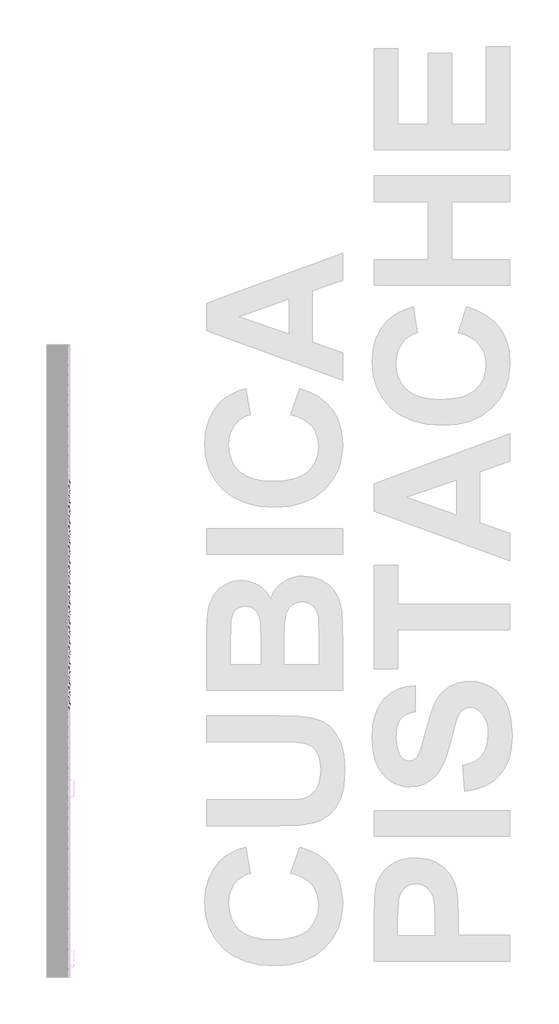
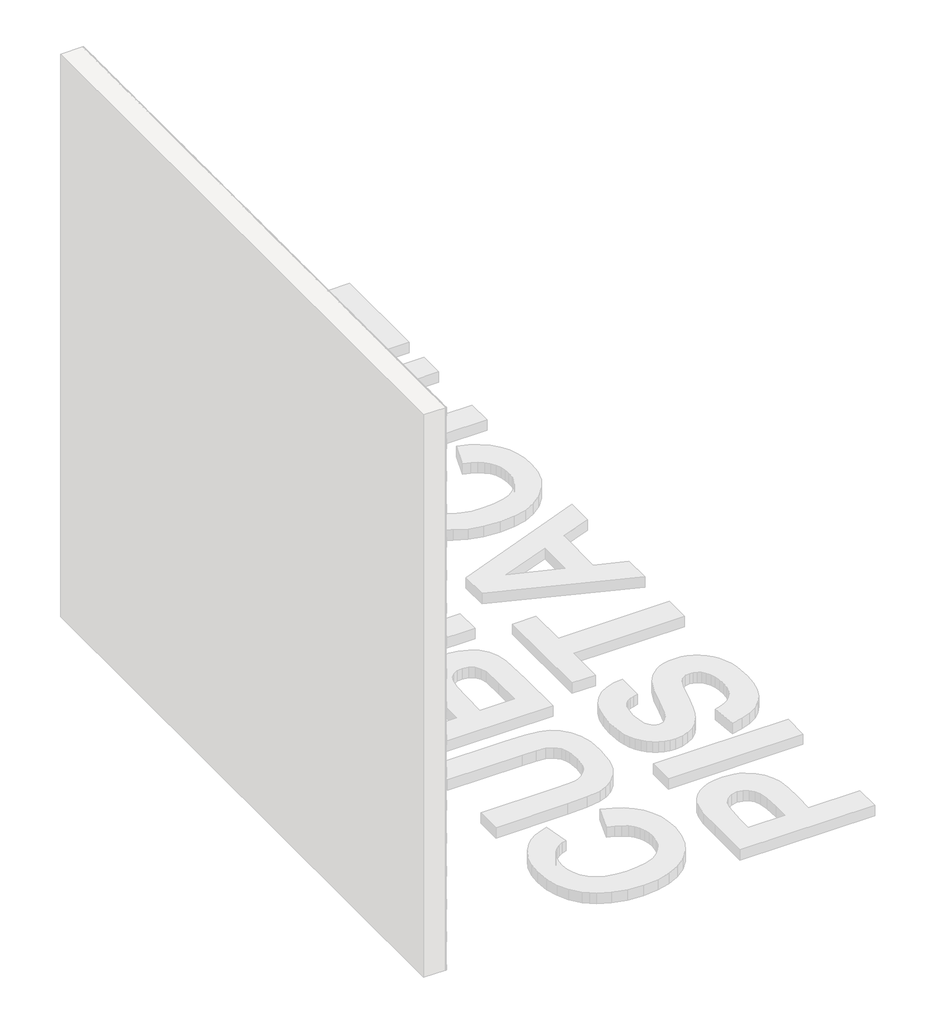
# One storey, part 87 of 121: 145 proxies.
"""IFC4 building model written with IfcOpenShell, lengths in millimetres."""

from ifc_helpers import new_model, si_unit, origin, place, context, project, spatial, transform, mapped, element, save
from components import generic_models_b2b2c5c1, generic_models_9bf73f6f, generic_models_5d175859

model = new_model("IFC4")

# Units and contexts
model_context = context("Model", 3, world=origin())
ifc_project = project(units=[si_unit("LENGTHUNIT", "METRE", prefix="MILLI")], contexts=[model_context])

# Site, building, storey
site = spatial("IfcSite", under=ifc_project)
building = spatial("IfcBuilding", under=site)
storey = spatial("IfcBuildingStorey", under=building, Name="PORTOBELLO - SHOWROOM", Elevation=0.0)

# Proxies
placement = place(None, origin())
generic_models_shape = generic_models_b2b2c5c1(model_context)
element("IfcBuildingElementProxy", 1, Name="PBSHOP - CUBICA PISTACHE 4,8X8,3 : CUBICA PISTACHE - POSIÇÃO 01", ObjectType="PBSHOP - CUBICA PISTACHE 4,8X8,3 : CUBICA PISTACHE - POSIÇÃO 01", at=placement, inside=storey, context=model_context, shape_type="MappedRepresentation", body=[
    mapped(generic_models_shape, transform((150369.5341846, 14295.3956881, 1065.5724657), x_axis=(0.0, 1.0, 0.0), y_axis=(0.0, 0.0, 1.0), z_axis=(1.0, 0.0, 0.0))),
])
element("IfcBuildingElementProxy", 2, Name="PBSHOP - CUBICA PISTACHE 4,8X8,3 : CUBICA PISTACHE - POSIÇÃO 01", ObjectType="PBSHOP - CUBICA PISTACHE 4,8X8,3 : CUBICA PISTACHE - POSIÇÃO 01", at=placement, inside=storey, context=model_context, shape_type="MappedRepresentation", body=[
    mapped(generic_models_shape, transform((150369.5341846, 14386.2349573, 1065.5724657), x_axis=(0.0, 1.0, 0.0), y_axis=(0.0, 0.0, 1.0), z_axis=(1.0, 0.0, 0.0))),
])
element("IfcBuildingElementProxy", 3, Name="PBSHOP - CUBICA PISTACHE 4,8X8,3 : CUBICA PISTACHE - POSIÇÃO 01", ObjectType="PBSHOP - CUBICA PISTACHE 4,8X8,3 : CUBICA PISTACHE - POSIÇÃO 01", at=placement, inside=storey, context=model_context, shape_type="MappedRepresentation", body=[
    mapped(generic_models_shape, transform((150369.5341846, 14477.0742266, 1065.5724657), x_axis=(0.0, 1.0, 0.0), y_axis=(0.0, 0.0, 1.0), z_axis=(1.0, 0.0, 0.0))),
])
element("IfcBuildingElementProxy", 4, Name="PBSHOP - CUBICA PISTACHE 4,8X8,3 : CUBICA PISTACHE - POSIÇÃO 01", ObjectType="PBSHOP - CUBICA PISTACHE 4,8X8,3 : CUBICA PISTACHE - POSIÇÃO 01", at=placement, inside=storey, context=model_context, shape_type="MappedRepresentation", body=[
    mapped(generic_models_shape, transform((150369.5341846, 14567.9134958, 1065.5724657), x_axis=(0.0, 1.0, 0.0), y_axis=(0.0, 0.0, 1.0), z_axis=(1.0, 0.0, 0.0))),
])
element("IfcBuildingElementProxy", 5, Name="PBSHOP - CUBICA PISTACHE 4,8X8,3 : CUBICA PISTACHE - POSIÇÃO 01", ObjectType="PBSHOP - CUBICA PISTACHE 4,8X8,3 : CUBICA PISTACHE - POSIÇÃO 01", at=placement, inside=storey, context=model_context, shape_type="MappedRepresentation", body=[
    mapped(generic_models_shape, transform((150369.5341846, 14658.7527651, 1065.5724657), x_axis=(0.0, 1.0, 0.0), y_axis=(0.0, 0.0, 1.0), z_axis=(1.0, 0.0, 0.0))),
])
element("IfcBuildingElementProxy", 6, Name="PBSHOP - CUBICA PISTACHE 4,8X8,3 : CUBICA PISTACHE - POSIÇÃO 01", ObjectType="PBSHOP - CUBICA PISTACHE 4,8X8,3 : CUBICA PISTACHE - POSIÇÃO 01", at=placement, inside=storey, context=model_context, shape_type="MappedRepresentation", body=[
    mapped(generic_models_shape, transform((150369.5341846, 14749.5920343, 1065.5724657), x_axis=(0.0, 1.0, 0.0), y_axis=(0.0, 0.0, 1.0), z_axis=(1.0, 0.0, 0.0))),
])
element("IfcBuildingElementProxy", 7, Name="PBSHOP - CUBICA PISTACHE 4,8X8,3 : CUBICA PISTACHE - POSIÇÃO 01", ObjectType="PBSHOP - CUBICA PISTACHE 4,8X8,3 : CUBICA PISTACHE - POSIÇÃO 01", at=placement, inside=storey, context=model_context, shape_type="MappedRepresentation", body=[
    mapped(generic_models_shape, transform((150369.5341846, 14840.4313036, 1065.5724657), x_axis=(0.0, 1.0, 0.0), y_axis=(0.0, 0.0, 1.0), z_axis=(1.0, 0.0, 0.0))),
])
element("IfcBuildingElementProxy", 8, Name="PBSHOP - CUBICA PISTACHE 4,8X8,3 : CUBICA PISTACHE - POSIÇÃO 01", ObjectType="PBSHOP - CUBICA PISTACHE 4,8X8,3 : CUBICA PISTACHE - POSIÇÃO 01", at=placement, inside=storey, context=model_context, shape_type="MappedRepresentation", body=[
    mapped(generic_models_shape, transform((150369.5341846, 14931.2705728, 1065.5724657), x_axis=(0.0, 1.0, 0.0), y_axis=(0.0, 0.0, 1.0), z_axis=(1.0, 0.0, 0.0))),
])
element("IfcBuildingElementProxy", 9, Name="PBSHOP - CUBICA PISTACHE 4,8X8,3 : CUBICA PISTACHE - POSIÇÃO 01", ObjectType="PBSHOP - CUBICA PISTACHE 4,8X8,3 : CUBICA PISTACHE - POSIÇÃO 01", at=placement, inside=storey, context=model_context, shape_type="MappedRepresentation", body=[
    mapped(generic_models_shape, transform((150369.5341846, 14068.297515, 1144.507104), x_axis=(0.0, 1.0, 0.0), y_axis=(0.0, 0.0, 1.0), z_axis=(1.0, 0.0, 0.0))),
])
element("IfcBuildingElementProxy", 10, Name="PBSHOP - CUBICA PISTACHE 4,8X8,3 : CUBICA PISTACHE - POSIÇÃO 01", ObjectType="PBSHOP - CUBICA PISTACHE 4,8X8,3 : CUBICA PISTACHE - POSIÇÃO 01", at=placement, inside=storey, context=model_context, shape_type="MappedRepresentation", body=[
    mapped(generic_models_shape, transform((150369.5341846, 14159.1367842, 1144.507104), x_axis=(0.0, 1.0, 0.0), y_axis=(0.0, 0.0, 1.0), z_axis=(1.0, 0.0, 0.0))),
])
element("IfcBuildingElementProxy", 11, Name="PBSHOP - CUBICA PISTACHE 4,8X8,3 : CUBICA PISTACHE - POSIÇÃO 01", ObjectType="PBSHOP - CUBICA PISTACHE 4,8X8,3 : CUBICA PISTACHE - POSIÇÃO 01", at=placement, inside=storey, context=model_context, shape_type="MappedRepresentation", body=[
    mapped(generic_models_shape, transform((150369.5341846, 14249.9760535, 1144.507104), x_axis=(0.0, 1.0, 0.0), y_axis=(0.0, 0.0, 1.0), z_axis=(1.0, 0.0, 0.0))),
])
element("IfcBuildingElementProxy", 12, Name="PBSHOP - CUBICA PISTACHE 4,8X8,3 : CUBICA PISTACHE - POSIÇÃO 01", ObjectType="PBSHOP - CUBICA PISTACHE 4,8X8,3 : CUBICA PISTACHE - POSIÇÃO 01", at=placement, inside=storey, context=model_context, shape_type="MappedRepresentation", body=[
    mapped(generic_models_shape, transform((150369.5341846, 14340.8153227, 1144.507104), x_axis=(0.0, 1.0, 0.0), y_axis=(0.0, 0.0, 1.0), z_axis=(1.0, 0.0, 0.0))),
])
element("IfcBuildingElementProxy", 13, Name="PBSHOP - CUBICA PISTACHE 4,8X8,3 : CUBICA PISTACHE - POSIÇÃO 01", ObjectType="PBSHOP - CUBICA PISTACHE 4,8X8,3 : CUBICA PISTACHE - POSIÇÃO 01", at=placement, inside=storey, context=model_context, shape_type="MappedRepresentation", body=[
    mapped(generic_models_shape, transform((150369.5341846, 14431.654592, 1144.507104), x_axis=(0.0, 1.0, 0.0), y_axis=(0.0, 0.0, 1.0), z_axis=(1.0, 0.0, 0.0))),
])
element("IfcBuildingElementProxy", 14, Name="PBSHOP - CUBICA PISTACHE 4,8X8,3 : CUBICA PISTACHE - POSIÇÃO 01", ObjectType="PBSHOP - CUBICA PISTACHE 4,8X8,3 : CUBICA PISTACHE - POSIÇÃO 01", at=placement, inside=storey, context=model_context, shape_type="MappedRepresentation", body=[
    mapped(generic_models_shape, transform((150369.5341846, 14522.4938612, 1144.507104), x_axis=(0.0, 1.0, 0.0), y_axis=(0.0, 0.0, 1.0), z_axis=(1.0, 0.0, 0.0))),
])
element("IfcBuildingElementProxy", 15, Name="PBSHOP - CUBICA PISTACHE 4,8X8,3 : CUBICA PISTACHE - POSIÇÃO 01", ObjectType="PBSHOP - CUBICA PISTACHE 4,8X8,3 : CUBICA PISTACHE - POSIÇÃO 01", at=placement, inside=storey, context=model_context, shape_type="MappedRepresentation", body=[
    mapped(generic_models_shape, transform((150369.5341846, 14613.3331304, 1144.507104), x_axis=(0.0, 1.0, 0.0), y_axis=(0.0, 0.0, 1.0), z_axis=(1.0, 0.0, 0.0))),
])
element("IfcBuildingElementProxy", 16, Name="PBSHOP - CUBICA PISTACHE 4,8X8,3 : CUBICA PISTACHE - POSIÇÃO 01", ObjectType="PBSHOP - CUBICA PISTACHE 4,8X8,3 : CUBICA PISTACHE - POSIÇÃO 01", at=placement, inside=storey, context=model_context, shape_type="MappedRepresentation", body=[
    mapped(generic_models_shape, transform((150369.5341846, 14704.1723997, 1144.507104), x_axis=(0.0, 1.0, 0.0), y_axis=(0.0, 0.0, 1.0), z_axis=(1.0, 0.0, 0.0))),
])
element("IfcBuildingElementProxy", 17, Name="PBSHOP - CUBICA PISTACHE 4,8X8,3 : CUBICA PISTACHE - POSIÇÃO 01", ObjectType="PBSHOP - CUBICA PISTACHE 4,8X8,3 : CUBICA PISTACHE - POSIÇÃO 01", at=placement, inside=storey, context=model_context, shape_type="MappedRepresentation", body=[
    mapped(generic_models_shape, transform((150369.5341846, 14795.0116689, 1144.507104), x_axis=(0.0, 1.0, 0.0), y_axis=(0.0, 0.0, 1.0), z_axis=(1.0, 0.0, 0.0))),
])
element("IfcBuildingElementProxy", 18, Name="PBSHOP - CUBICA PISTACHE 4,8X8,3 : CUBICA PISTACHE - POSIÇÃO 01", ObjectType="PBSHOP - CUBICA PISTACHE 4,8X8,3 : CUBICA PISTACHE - POSIÇÃO 01", at=placement, inside=storey, context=model_context, shape_type="MappedRepresentation", body=[
    mapped(generic_models_shape, transform((150369.5341846, 14885.8509382, 1144.507104), x_axis=(0.0, 1.0, 0.0), y_axis=(0.0, 0.0, 1.0), z_axis=(1.0, 0.0, 0.0))),
])
element("IfcBuildingElementProxy", 19, Name="PBSHOP - CUBICA PISTACHE 4,8X8,3 : CUBICA PISTACHE - POSIÇÃO 01", ObjectType="PBSHOP - CUBICA PISTACHE 4,8X8,3 : CUBICA PISTACHE - POSIÇÃO 01", at=placement, inside=storey, context=model_context, shape_type="MappedRepresentation", body=[
    mapped(generic_models_shape, transform((150369.5341846, 14976.6902074, 1144.507104), x_axis=(0.0, 1.0, 0.0), y_axis=(0.0, 0.0, 1.0), z_axis=(1.0, 0.0, 0.0))),
])
element("IfcBuildingElementProxy", 20, Name="PBSHOP - CUBICA PISTACHE 4,8X8,3 : CUBICA PISTACHE - POSIÇÃO 01", ObjectType="PBSHOP - CUBICA PISTACHE 4,8X8,3 : CUBICA PISTACHE - POSIÇÃO 01", at=placement, inside=storey, context=model_context, shape_type="MappedRepresentation", body=[
    mapped(generic_models_shape, transform((150369.5341846, 14022.8778804, 1223.4417424), x_axis=(0.0, 1.0, 0.0), y_axis=(0.0, 0.0, 1.0), z_axis=(1.0, 0.0, 0.0))),
])
element("IfcBuildingElementProxy", 21, Name="PBSHOP - CUBICA PISTACHE 4,8X8,3 : CUBICA PISTACHE - POSIÇÃO 01", ObjectType="PBSHOP - CUBICA PISTACHE 4,8X8,3 : CUBICA PISTACHE - POSIÇÃO 01", at=placement, inside=storey, context=model_context, shape_type="MappedRepresentation", body=[
    mapped(generic_models_shape, transform((150369.5341846, 14113.7171496, 1223.4417424), x_axis=(0.0, 1.0, 0.0), y_axis=(0.0, 0.0, 1.0), z_axis=(1.0, 0.0, 0.0))),
])
element("IfcBuildingElementProxy", 22, Name="PBSHOP - CUBICA PISTACHE 4,8X8,3 : CUBICA PISTACHE - POSIÇÃO 01", ObjectType="PBSHOP - CUBICA PISTACHE 4,8X8,3 : CUBICA PISTACHE - POSIÇÃO 01", at=placement, inside=storey, context=model_context, shape_type="MappedRepresentation", body=[
    mapped(generic_models_shape, transform((150369.5341846, 14204.5564189, 1223.4417424), x_axis=(0.0, 1.0, 0.0), y_axis=(0.0, 0.0, 1.0), z_axis=(1.0, 0.0, 0.0))),
])
element("IfcBuildingElementProxy", 23, Name="PBSHOP - CUBICA PISTACHE 4,8X8,3 : CUBICA PISTACHE - POSIÇÃO 01", ObjectType="PBSHOP - CUBICA PISTACHE 4,8X8,3 : CUBICA PISTACHE - POSIÇÃO 01", at=placement, inside=storey, context=model_context, shape_type="MappedRepresentation", body=[
    mapped(generic_models_shape, transform((150369.5341846, 14295.3956881, 1223.4417424), x_axis=(0.0, 1.0, 0.0), y_axis=(0.0, 0.0, 1.0), z_axis=(1.0, 0.0, 0.0))),
])
element("IfcBuildingElementProxy", 24, Name="PBSHOP - CUBICA PISTACHE 4,8X8,3 : CUBICA PISTACHE - POSIÇÃO 01", ObjectType="PBSHOP - CUBICA PISTACHE 4,8X8,3 : CUBICA PISTACHE - POSIÇÃO 01", at=placement, inside=storey, context=model_context, shape_type="MappedRepresentation", body=[
    mapped(generic_models_shape, transform((150369.5341846, 14386.2349573, 1223.4417424), x_axis=(0.0, 1.0, 0.0), y_axis=(0.0, 0.0, 1.0), z_axis=(1.0, 0.0, 0.0))),
])
element("IfcBuildingElementProxy", 25, Name="PBSHOP - CUBICA PISTACHE 4,8X8,3 : CUBICA PISTACHE - POSIÇÃO 01", ObjectType="PBSHOP - CUBICA PISTACHE 4,8X8,3 : CUBICA PISTACHE - POSIÇÃO 01", at=placement, inside=storey, context=model_context, shape_type="MappedRepresentation", body=[
    mapped(generic_models_shape, transform((150369.5341846, 14477.0742266, 1223.4417424), x_axis=(0.0, 1.0, 0.0), y_axis=(0.0, 0.0, 1.0), z_axis=(1.0, 0.0, 0.0))),
])
element("IfcBuildingElementProxy", 26, Name="PBSHOP - CUBICA PISTACHE 4,8X8,3 : CUBICA PISTACHE - POSIÇÃO 01", ObjectType="PBSHOP - CUBICA PISTACHE 4,8X8,3 : CUBICA PISTACHE - POSIÇÃO 01", at=placement, inside=storey, context=model_context, shape_type="MappedRepresentation", body=[
    mapped(generic_models_shape, transform((150369.5341846, 14567.9134958, 1223.4417424), x_axis=(0.0, 1.0, 0.0), y_axis=(0.0, 0.0, 1.0), z_axis=(1.0, 0.0, 0.0))),
])
element("IfcBuildingElementProxy", 27, Name="PBSHOP - CUBICA PISTACHE 4,8X8,3 : CUBICA PISTACHE - POSIÇÃO 01", ObjectType="PBSHOP - CUBICA PISTACHE 4,8X8,3 : CUBICA PISTACHE - POSIÇÃO 01", at=placement, inside=storey, context=model_context, shape_type="MappedRepresentation", body=[
    mapped(generic_models_shape, transform((150369.5341846, 14658.7527651, 1223.4417424), x_axis=(0.0, 1.0, 0.0), y_axis=(0.0, 0.0, 1.0), z_axis=(1.0, 0.0, 0.0))),
])
element("IfcBuildingElementProxy", 28, Name="PBSHOP - CUBICA PISTACHE 4,8X8,3 : CUBICA PISTACHE - POSIÇÃO 01", ObjectType="PBSHOP - CUBICA PISTACHE 4,8X8,3 : CUBICA PISTACHE - POSIÇÃO 01", at=placement, inside=storey, context=model_context, shape_type="MappedRepresentation", body=[
    mapped(generic_models_shape, transform((150369.5341846, 14749.5920343, 1223.4417424), x_axis=(0.0, 1.0, 0.0), y_axis=(0.0, 0.0, 1.0), z_axis=(1.0, 0.0, 0.0))),
])
element("IfcBuildingElementProxy", 29, Name="PBSHOP - CUBICA PISTACHE 4,8X8,3 : CUBICA PISTACHE - POSIÇÃO 01", ObjectType="PBSHOP - CUBICA PISTACHE 4,8X8,3 : CUBICA PISTACHE - POSIÇÃO 01", at=placement, inside=storey, context=model_context, shape_type="MappedRepresentation", body=[
    mapped(generic_models_shape, transform((150369.5341846, 14840.4313036, 1223.4417424), x_axis=(0.0, 1.0, 0.0), y_axis=(0.0, 0.0, 1.0), z_axis=(1.0, 0.0, 0.0))),
])
element("IfcBuildingElementProxy", 30, Name="PBSHOP - CUBICA PISTACHE 4,8X8,3 : CUBICA PISTACHE - POSIÇÃO 01", ObjectType="PBSHOP - CUBICA PISTACHE 4,8X8,3 : CUBICA PISTACHE - POSIÇÃO 01", at=placement, inside=storey, context=model_context, shape_type="MappedRepresentation", body=[
    mapped(generic_models_shape, transform((150369.5341846, 14931.2705728, 1223.4417424), x_axis=(0.0, 1.0, 0.0), y_axis=(0.0, 0.0, 1.0), z_axis=(1.0, 0.0, 0.0))),
])
element("IfcBuildingElementProxy", 31, Name="PBSHOP - CUBICA PISTACHE 4,8X8,3 : CUBICA PISTACHE - POSIÇÃO 01", ObjectType="PBSHOP - CUBICA PISTACHE 4,8X8,3 : CUBICA PISTACHE - POSIÇÃO 01", at=placement, inside=storey, context=model_context, shape_type="MappedRepresentation", body=[
    mapped(generic_models_shape, transform((150369.5341846, 14068.297515, 1302.3763808), x_axis=(0.0, 1.0, 0.0), y_axis=(0.0, 0.0, 1.0), z_axis=(1.0, 0.0, 0.0))),
])
element("IfcBuildingElementProxy", 32, Name="PBSHOP - CUBICA PISTACHE 4,8X8,3 : CUBICA PISTACHE - POSIÇÃO 01", ObjectType="PBSHOP - CUBICA PISTACHE 4,8X8,3 : CUBICA PISTACHE - POSIÇÃO 01", at=placement, inside=storey, context=model_context, shape_type="MappedRepresentation", body=[
    mapped(generic_models_shape, transform((150369.5341846, 14159.1367842, 1302.3763808), x_axis=(0.0, 1.0, 0.0), y_axis=(0.0, 0.0, 1.0), z_axis=(1.0, 0.0, 0.0))),
])
element("IfcBuildingElementProxy", 33, Name="PBSHOP - CUBICA PISTACHE 4,8X8,3 : CUBICA PISTACHE - POSIÇÃO 01", ObjectType="PBSHOP - CUBICA PISTACHE 4,8X8,3 : CUBICA PISTACHE - POSIÇÃO 01", at=placement, inside=storey, context=model_context, shape_type="MappedRepresentation", body=[
    mapped(generic_models_shape, transform((150369.5341846, 14249.9760535, 1302.3763808), x_axis=(0.0, 1.0, 0.0), y_axis=(0.0, 0.0, 1.0), z_axis=(1.0, 0.0, 0.0))),
])
element("IfcBuildingElementProxy", 34, Name="PBSHOP - CUBICA PISTACHE 4,8X8,3 : CUBICA PISTACHE - POSIÇÃO 01", ObjectType="PBSHOP - CUBICA PISTACHE 4,8X8,3 : CUBICA PISTACHE - POSIÇÃO 01", at=placement, inside=storey, context=model_context, shape_type="MappedRepresentation", body=[
    mapped(generic_models_shape, transform((150369.5341846, 14340.8153227, 1302.3763808), x_axis=(0.0, 1.0, 0.0), y_axis=(0.0, 0.0, 1.0), z_axis=(1.0, 0.0, 0.0))),
])
element("IfcBuildingElementProxy", 35, Name="PBSHOP - CUBICA PISTACHE 4,8X8,3 : CUBICA PISTACHE - POSIÇÃO 01", ObjectType="PBSHOP - CUBICA PISTACHE 4,8X8,3 : CUBICA PISTACHE - POSIÇÃO 01", at=placement, inside=storey, context=model_context, shape_type="MappedRepresentation", body=[
    mapped(generic_models_shape, transform((150369.5341846, 14431.654592, 1302.3763808), x_axis=(0.0, 1.0, 0.0), y_axis=(0.0, 0.0, 1.0), z_axis=(1.0, 0.0, 0.0))),
])
element("IfcBuildingElementProxy", 36, Name="PBSHOP - CUBICA PISTACHE 4,8X8,3 : CUBICA PISTACHE - POSIÇÃO 01", ObjectType="PBSHOP - CUBICA PISTACHE 4,8X8,3 : CUBICA PISTACHE - POSIÇÃO 01", at=placement, inside=storey, context=model_context, shape_type="MappedRepresentation", body=[
    mapped(generic_models_shape, transform((150369.5341846, 14522.4938612, 1302.3763808), x_axis=(0.0, 1.0, 0.0), y_axis=(0.0, 0.0, 1.0), z_axis=(1.0, 0.0, 0.0))),
])
element("IfcBuildingElementProxy", 37, Name="PBSHOP - CUBICA PISTACHE 4,8X8,3 : CUBICA PISTACHE - POSIÇÃO 01", ObjectType="PBSHOP - CUBICA PISTACHE 4,8X8,3 : CUBICA PISTACHE - POSIÇÃO 01", at=placement, inside=storey, context=model_context, shape_type="MappedRepresentation", body=[
    mapped(generic_models_shape, transform((150369.5341846, 14613.3331304, 1302.3763808), x_axis=(0.0, 1.0, 0.0), y_axis=(0.0, 0.0, 1.0), z_axis=(1.0, 0.0, 0.0))),
])
element("IfcBuildingElementProxy", 38, Name="PBSHOP - CUBICA PISTACHE 4,8X8,3 : CUBICA PISTACHE - POSIÇÃO 01", ObjectType="PBSHOP - CUBICA PISTACHE 4,8X8,3 : CUBICA PISTACHE - POSIÇÃO 01", at=placement, inside=storey, context=model_context, shape_type="MappedRepresentation", body=[
    mapped(generic_models_shape, transform((150369.5341846, 14704.1723997, 1302.3763808), x_axis=(0.0, 1.0, 0.0), y_axis=(0.0, 0.0, 1.0), z_axis=(1.0, 0.0, 0.0))),
])
element("IfcBuildingElementProxy", 39, Name="PBSHOP - CUBICA PISTACHE 4,8X8,3 : CUBICA PISTACHE - POSIÇÃO 01", ObjectType="PBSHOP - CUBICA PISTACHE 4,8X8,3 : CUBICA PISTACHE - POSIÇÃO 01", at=placement, inside=storey, context=model_context, shape_type="MappedRepresentation", body=[
    mapped(generic_models_shape, transform((150369.5341846, 14795.0116689, 1302.3763808), x_axis=(0.0, 1.0, 0.0), y_axis=(0.0, 0.0, 1.0), z_axis=(1.0, 0.0, 0.0))),
])
element("IfcBuildingElementProxy", 40, Name="PBSHOP - CUBICA PISTACHE 4,8X8,3 : CUBICA PISTACHE - POSIÇÃO 01", ObjectType="PBSHOP - CUBICA PISTACHE 4,8X8,3 : CUBICA PISTACHE - POSIÇÃO 01", at=placement, inside=storey, context=model_context, shape_type="MappedRepresentation", body=[
    mapped(generic_models_shape, transform((150369.5341846, 14885.8509382, 1302.3763808), x_axis=(0.0, 1.0, 0.0), y_axis=(0.0, 0.0, 1.0), z_axis=(1.0, 0.0, 0.0))),
])
element("IfcBuildingElementProxy", 41, Name="PBSHOP - CUBICA PISTACHE 4,8X8,3 : CUBICA PISTACHE - POSIÇÃO 01", ObjectType="PBSHOP - CUBICA PISTACHE 4,8X8,3 : CUBICA PISTACHE - POSIÇÃO 01", at=placement, inside=storey, context=model_context, shape_type="MappedRepresentation", body=[
    mapped(generic_models_shape, transform((150369.5341846, 14976.6902074, 1302.3763808), x_axis=(0.0, 1.0, 0.0), y_axis=(0.0, 0.0, 1.0), z_axis=(1.0, 0.0, 0.0))),
])
element("IfcBuildingElementProxy", 42, Name="PBSHOP - CUBICA PISTACHE 4,8X8,3 : CUBICA PISTACHE - POSIÇÃO 01", ObjectType="PBSHOP - CUBICA PISTACHE 4,8X8,3 : CUBICA PISTACHE - POSIÇÃO 01", at=placement, inside=storey, context=model_context, shape_type="MappedRepresentation", body=[
    mapped(generic_models_shape, transform((150369.5341846, 14022.8778804, 1381.3110192), x_axis=(0.0, 1.0, 0.0), y_axis=(0.0, 0.0, 1.0), z_axis=(1.0, 0.0, 0.0))),
])
element("IfcBuildingElementProxy", 43, Name="PBSHOP - CUBICA PISTACHE 4,8X8,3 : CUBICA PISTACHE - POSIÇÃO 01", ObjectType="PBSHOP - CUBICA PISTACHE 4,8X8,3 : CUBICA PISTACHE - POSIÇÃO 01", at=placement, inside=storey, context=model_context, shape_type="MappedRepresentation", body=[
    mapped(generic_models_shape, transform((150369.5341846, 14113.7171496, 1381.3110192), x_axis=(0.0, 1.0, 0.0), y_axis=(0.0, 0.0, 1.0), z_axis=(1.0, 0.0, 0.0))),
])
element("IfcBuildingElementProxy", 44, Name="PBSHOP - CUBICA PISTACHE 4,8X8,3 : CUBICA PISTACHE - POSIÇÃO 01", ObjectType="PBSHOP - CUBICA PISTACHE 4,8X8,3 : CUBICA PISTACHE - POSIÇÃO 01", at=placement, inside=storey, context=model_context, shape_type="MappedRepresentation", body=[
    mapped(generic_models_shape, transform((150369.5341846, 14204.5564189, 1381.3110192), x_axis=(0.0, 1.0, 0.0), y_axis=(0.0, 0.0, 1.0), z_axis=(1.0, 0.0, 0.0))),
])
element("IfcBuildingElementProxy", 45, Name="PBSHOP - CUBICA PISTACHE 4,8X8,3 : CUBICA PISTACHE - POSIÇÃO 01", ObjectType="PBSHOP - CUBICA PISTACHE 4,8X8,3 : CUBICA PISTACHE - POSIÇÃO 01", at=placement, inside=storey, context=model_context, shape_type="MappedRepresentation", body=[
    mapped(generic_models_shape, transform((150369.5341846, 14295.3956881, 1381.3110192), x_axis=(0.0, 1.0, 0.0), y_axis=(0.0, 0.0, 1.0), z_axis=(1.0, 0.0, 0.0))),
])
element("IfcBuildingElementProxy", 46, Name="PBSHOP - CUBICA PISTACHE 4,8X8,3 : CUBICA PISTACHE - POSIÇÃO 01", ObjectType="PBSHOP - CUBICA PISTACHE 4,8X8,3 : CUBICA PISTACHE - POSIÇÃO 01", at=placement, inside=storey, context=model_context, shape_type="MappedRepresentation", body=[
    mapped(generic_models_shape, transform((150369.5341846, 14386.2349573, 1381.3110192), x_axis=(0.0, 1.0, 0.0), y_axis=(0.0, 0.0, 1.0), z_axis=(1.0, 0.0, 0.0))),
])
element("IfcBuildingElementProxy", 47, Name="PBSHOP - CUBICA PISTACHE 4,8X8,3 : CUBICA PISTACHE - POSIÇÃO 01", ObjectType="PBSHOP - CUBICA PISTACHE 4,8X8,3 : CUBICA PISTACHE - POSIÇÃO 01", at=placement, inside=storey, context=model_context, shape_type="MappedRepresentation", body=[
    mapped(generic_models_shape, transform((150369.5341846, 14477.0742266, 1381.3110192), x_axis=(0.0, 1.0, 0.0), y_axis=(0.0, 0.0, 1.0), z_axis=(1.0, 0.0, 0.0))),
])
element("IfcBuildingElementProxy", 48, Name="PBSHOP - CUBICA PISTACHE 4,8X8,3 : CUBICA PISTACHE - POSIÇÃO 01", ObjectType="PBSHOP - CUBICA PISTACHE 4,8X8,3 : CUBICA PISTACHE - POSIÇÃO 01", at=placement, inside=storey, context=model_context, shape_type="MappedRepresentation", body=[
    mapped(generic_models_shape, transform((150369.5341846, 14567.9134958, 1381.3110192), x_axis=(0.0, 1.0, 0.0), y_axis=(0.0, 0.0, 1.0), z_axis=(1.0, 0.0, 0.0))),
])
element("IfcBuildingElementProxy", 49, Name="PBSHOP - CUBICA PISTACHE 4,8X8,3 : CUBICA PISTACHE - POSIÇÃO 01", ObjectType="PBSHOP - CUBICA PISTACHE 4,8X8,3 : CUBICA PISTACHE - POSIÇÃO 01", at=placement, inside=storey, context=model_context, shape_type="MappedRepresentation", body=[
    mapped(generic_models_shape, transform((150369.5341846, 14658.7527651, 1381.3110192), x_axis=(0.0, 1.0, 0.0), y_axis=(0.0, 0.0, 1.0), z_axis=(1.0, 0.0, 0.0))),
])
generic_models_2_shape = generic_models_9bf73f6f(model_context)
element("IfcBuildingElementProxy", 50, Name="PBSHOP - CUBICA PISTACHE 4,8X8,3 : CUBICA PISTACHE - POSIÇÃO 03", ObjectType="PBSHOP - CUBICA PISTACHE 4,8X8,3 : CUBICA PISTACHE - POSIÇÃO 03", at=placement, inside=storey, context=model_context, shape_type="MappedRepresentation", body=[
    mapped(generic_models_2_shape, transform((150369.5341846, 14000.1702222, 1026.0639361), x_axis=(0.0, 1.0, 0.0), y_axis=(0.0, 0.0, 1.0), z_axis=(1.0, 0.0, 0.0))),
])
element("IfcBuildingElementProxy", 51, Name="PBSHOP - CUBICA PISTACHE 4,8X8,3 : CUBICA PISTACHE - POSIÇÃO 03", ObjectType="PBSHOP - CUBICA PISTACHE 4,8X8,3 : CUBICA PISTACHE - POSIÇÃO 03", at=placement, inside=storey, context=model_context, shape_type="MappedRepresentation", body=[
    mapped(generic_models_2_shape, transform((150369.5341846, 14091.0094915, 1026.0639361), x_axis=(0.0, 1.0, 0.0), y_axis=(0.0, 0.0, 1.0), z_axis=(1.0, 0.0, 0.0))),
])
element("IfcBuildingElementProxy", 52, Name="PBSHOP - CUBICA PISTACHE 4,8X8,3 : CUBICA PISTACHE - POSIÇÃO 03", ObjectType="PBSHOP - CUBICA PISTACHE 4,8X8,3 : CUBICA PISTACHE - POSIÇÃO 03", at=placement, inside=storey, context=model_context, shape_type="MappedRepresentation", body=[
    mapped(generic_models_2_shape, transform((150369.5341846, 14181.8487607, 1026.0639361), x_axis=(0.0, 1.0, 0.0), y_axis=(0.0, 0.0, 1.0), z_axis=(1.0, 0.0, 0.0))),
])
element("IfcBuildingElementProxy", 53, Name="PBSHOP - CUBICA PISTACHE 4,8X8,3 : CUBICA PISTACHE - POSIÇÃO 03", ObjectType="PBSHOP - CUBICA PISTACHE 4,8X8,3 : CUBICA PISTACHE - POSIÇÃO 03", at=placement, inside=storey, context=model_context, shape_type="MappedRepresentation", body=[
    mapped(generic_models_2_shape, transform((150369.5341846, 14272.6880299, 1026.0639361), x_axis=(0.0, 1.0, 0.0), y_axis=(0.0, 0.0, 1.0), z_axis=(1.0, 0.0, 0.0))),
])
element("IfcBuildingElementProxy", 54, Name="PBSHOP - CUBICA PISTACHE 4,8X8,3 : CUBICA PISTACHE - POSIÇÃO 03", ObjectType="PBSHOP - CUBICA PISTACHE 4,8X8,3 : CUBICA PISTACHE - POSIÇÃO 03", at=placement, inside=storey, context=model_context, shape_type="MappedRepresentation", body=[
    mapped(generic_models_2_shape, transform((150369.5341846, 14363.5272992, 1026.0639361), x_axis=(0.0, 1.0, 0.0), y_axis=(0.0, 0.0, 1.0), z_axis=(1.0, 0.0, 0.0))),
])
element("IfcBuildingElementProxy", 55, Name="PBSHOP - CUBICA PISTACHE 4,8X8,3 : CUBICA PISTACHE - POSIÇÃO 03", ObjectType="PBSHOP - CUBICA PISTACHE 4,8X8,3 : CUBICA PISTACHE - POSIÇÃO 03", at=placement, inside=storey, context=model_context, shape_type="MappedRepresentation", body=[
    mapped(generic_models_2_shape, transform((150369.5341846, 14454.3665684, 1026.0639361), x_axis=(0.0, 1.0, 0.0), y_axis=(0.0, 0.0, 1.0), z_axis=(1.0, 0.0, 0.0))),
])
element("IfcBuildingElementProxy", 56, Name="PBSHOP - CUBICA PISTACHE 4,8X8,3 : CUBICA PISTACHE - POSIÇÃO 03", ObjectType="PBSHOP - CUBICA PISTACHE 4,8X8,3 : CUBICA PISTACHE - POSIÇÃO 03", at=placement, inside=storey, context=model_context, shape_type="MappedRepresentation", body=[
    mapped(generic_models_2_shape, transform((150369.5341846, 14545.2058377, 1026.0639361), x_axis=(0.0, 1.0, 0.0), y_axis=(0.0, 0.0, 1.0), z_axis=(1.0, 0.0, 0.0))),
])
element("IfcBuildingElementProxy", 57, Name="PBSHOP - CUBICA PISTACHE 4,8X8,3 : CUBICA PISTACHE - POSIÇÃO 03", ObjectType="PBSHOP - CUBICA PISTACHE 4,8X8,3 : CUBICA PISTACHE - POSIÇÃO 03", at=placement, inside=storey, context=model_context, shape_type="MappedRepresentation", body=[
    mapped(generic_models_2_shape, transform((150369.5341846, 14636.0451069, 1026.0639361), x_axis=(0.0, 1.0, 0.0), y_axis=(0.0, 0.0, 1.0), z_axis=(1.0, 0.0, 0.0))),
])
element("IfcBuildingElementProxy", 58, Name="PBSHOP - CUBICA PISTACHE 4,8X8,3 : CUBICA PISTACHE - POSIÇÃO 03", ObjectType="PBSHOP - CUBICA PISTACHE 4,8X8,3 : CUBICA PISTACHE - POSIÇÃO 03", at=placement, inside=storey, context=model_context, shape_type="MappedRepresentation", body=[
    mapped(generic_models_2_shape, transform((150369.5341846, 14726.8843762, 1026.0639361), x_axis=(0.0, 1.0, 0.0), y_axis=(0.0, 0.0, 1.0), z_axis=(1.0, 0.0, 0.0))),
])
element("IfcBuildingElementProxy", 59, Name="PBSHOP - CUBICA PISTACHE 4,8X8,3 : CUBICA PISTACHE - POSIÇÃO 03", ObjectType="PBSHOP - CUBICA PISTACHE 4,8X8,3 : CUBICA PISTACHE - POSIÇÃO 03", at=placement, inside=storey, context=model_context, shape_type="MappedRepresentation", body=[
    mapped(generic_models_2_shape, transform((150369.5341846, 14817.7236454, 1026.0639361), x_axis=(0.0, 1.0, 0.0), y_axis=(0.0, 0.0, 1.0), z_axis=(1.0, 0.0, 0.0))),
])
element("IfcBuildingElementProxy", 60, Name="PBSHOP - CUBICA PISTACHE 4,8X8,3 : CUBICA PISTACHE - POSIÇÃO 03", ObjectType="PBSHOP - CUBICA PISTACHE 4,8X8,3 : CUBICA PISTACHE - POSIÇÃO 03", at=placement, inside=storey, context=model_context, shape_type="MappedRepresentation", body=[
    mapped(generic_models_2_shape, transform((150369.5341846, 14908.5629147, 1026.0639361), x_axis=(0.0, 1.0, 0.0), y_axis=(0.0, 0.0, 1.0), z_axis=(1.0, 0.0, 0.0))),
])
element("IfcBuildingElementProxy", 61, Name="PBSHOP - CUBICA PISTACHE 4,8X8,3 : CUBICA PISTACHE - POSIÇÃO 03", ObjectType="PBSHOP - CUBICA PISTACHE 4,8X8,3 : CUBICA PISTACHE - POSIÇÃO 03", at=placement, inside=storey, context=model_context, shape_type="MappedRepresentation", body=[
    mapped(generic_models_2_shape, transform((150369.5341846, 14999.4021839, 1026.0639361), x_axis=(0.0, 1.0, 0.0), y_axis=(0.0, 0.0, 1.0), z_axis=(1.0, 0.0, 0.0))),
])
element("IfcBuildingElementProxy", 62, Name="PBSHOP - CUBICA PISTACHE 4,8X8,3 : CUBICA PISTACHE - POSIÇÃO 03", ObjectType="PBSHOP - CUBICA PISTACHE 4,8X8,3 : CUBICA PISTACHE - POSIÇÃO 03", at=placement, inside=storey, context=model_context, shape_type="MappedRepresentation", body=[
    mapped(generic_models_2_shape, transform((150369.5341846, 14045.5898568, 1104.9985744), x_axis=(0.0, 1.0, 0.0), y_axis=(0.0, 0.0, 1.0), z_axis=(1.0, 0.0, 0.0))),
])
element("IfcBuildingElementProxy", 63, Name="PBSHOP - CUBICA PISTACHE 4,8X8,3 : CUBICA PISTACHE - POSIÇÃO 03", ObjectType="PBSHOP - CUBICA PISTACHE 4,8X8,3 : CUBICA PISTACHE - POSIÇÃO 03", at=placement, inside=storey, context=model_context, shape_type="MappedRepresentation", body=[
    mapped(generic_models_2_shape, transform((150369.5341846, 14136.4291261, 1104.9985744), x_axis=(0.0, 1.0, 0.0), y_axis=(0.0, 0.0, 1.0), z_axis=(1.0, 0.0, 0.0))),
])
element("IfcBuildingElementProxy", 64, Name="PBSHOP - CUBICA PISTACHE 4,8X8,3 : CUBICA PISTACHE - POSIÇÃO 03", ObjectType="PBSHOP - CUBICA PISTACHE 4,8X8,3 : CUBICA PISTACHE - POSIÇÃO 03", at=placement, inside=storey, context=model_context, shape_type="MappedRepresentation", body=[
    mapped(generic_models_2_shape, transform((150369.5341846, 14227.2683953, 1104.9985744), x_axis=(0.0, 1.0, 0.0), y_axis=(0.0, 0.0, 1.0), z_axis=(1.0, 0.0, 0.0))),
])
element("IfcBuildingElementProxy", 65, Name="PBSHOP - CUBICA PISTACHE 4,8X8,3 : CUBICA PISTACHE - POSIÇÃO 03", ObjectType="PBSHOP - CUBICA PISTACHE 4,8X8,3 : CUBICA PISTACHE - POSIÇÃO 03", at=placement, inside=storey, context=model_context, shape_type="MappedRepresentation", body=[
    mapped(generic_models_2_shape, transform((150369.5341846, 14318.1076646, 1104.9985744), x_axis=(0.0, 1.0, 0.0), y_axis=(0.0, 0.0, 1.0), z_axis=(1.0, 0.0, 0.0))),
])
element("IfcBuildingElementProxy", 66, Name="PBSHOP - CUBICA PISTACHE 4,8X8,3 : CUBICA PISTACHE - POSIÇÃO 03", ObjectType="PBSHOP - CUBICA PISTACHE 4,8X8,3 : CUBICA PISTACHE - POSIÇÃO 03", at=placement, inside=storey, context=model_context, shape_type="MappedRepresentation", body=[
    mapped(generic_models_2_shape, transform((150369.5341846, 14408.9469338, 1104.9985744), x_axis=(0.0, 1.0, 0.0), y_axis=(0.0, 0.0, 1.0), z_axis=(1.0, 0.0, 0.0))),
])
element("IfcBuildingElementProxy", 67, Name="PBSHOP - CUBICA PISTACHE 4,8X8,3 : CUBICA PISTACHE - POSIÇÃO 03", ObjectType="PBSHOP - CUBICA PISTACHE 4,8X8,3 : CUBICA PISTACHE - POSIÇÃO 03", at=placement, inside=storey, context=model_context, shape_type="MappedRepresentation", body=[
    mapped(generic_models_2_shape, transform((150369.5341846, 14499.7862031, 1104.9985744), x_axis=(0.0, 1.0, 0.0), y_axis=(0.0, 0.0, 1.0), z_axis=(1.0, 0.0, 0.0))),
])
element("IfcBuildingElementProxy", 68, Name="PBSHOP - CUBICA PISTACHE 4,8X8,3 : CUBICA PISTACHE - POSIÇÃO 03", ObjectType="PBSHOP - CUBICA PISTACHE 4,8X8,3 : CUBICA PISTACHE - POSIÇÃO 03", at=placement, inside=storey, context=model_context, shape_type="MappedRepresentation", body=[
    mapped(generic_models_2_shape, transform((150369.5341846, 14590.6254723, 1104.9985744), x_axis=(0.0, 1.0, 0.0), y_axis=(0.0, 0.0, 1.0), z_axis=(1.0, 0.0, 0.0))),
])
element("IfcBuildingElementProxy", 69, Name="PBSHOP - CUBICA PISTACHE 4,8X8,3 : CUBICA PISTACHE - POSIÇÃO 03", ObjectType="PBSHOP - CUBICA PISTACHE 4,8X8,3 : CUBICA PISTACHE - POSIÇÃO 03", at=placement, inside=storey, context=model_context, shape_type="MappedRepresentation", body=[
    mapped(generic_models_2_shape, transform((150369.5341846, 14681.4647415, 1104.9985744), x_axis=(0.0, 1.0, 0.0), y_axis=(0.0, 0.0, 1.0), z_axis=(1.0, 0.0, 0.0))),
])
element("IfcBuildingElementProxy", 70, Name="PBSHOP - CUBICA PISTACHE 4,8X8,3 : CUBICA PISTACHE - POSIÇÃO 03", ObjectType="PBSHOP - CUBICA PISTACHE 4,8X8,3 : CUBICA PISTACHE - POSIÇÃO 03", at=placement, inside=storey, context=model_context, shape_type="MappedRepresentation", body=[
    mapped(generic_models_2_shape, transform((150369.5341846, 14772.3040108, 1104.9985744), x_axis=(0.0, 1.0, 0.0), y_axis=(0.0, 0.0, 1.0), z_axis=(1.0, 0.0, 0.0))),
])
element("IfcBuildingElementProxy", 71, Name="PBSHOP - CUBICA PISTACHE 4,8X8,3 : CUBICA PISTACHE - POSIÇÃO 03", ObjectType="PBSHOP - CUBICA PISTACHE 4,8X8,3 : CUBICA PISTACHE - POSIÇÃO 03", at=placement, inside=storey, context=model_context, shape_type="MappedRepresentation", body=[
    mapped(generic_models_2_shape, transform((150369.5341846, 14863.14328, 1104.9985744), x_axis=(0.0, 1.0, 0.0), y_axis=(0.0, 0.0, 1.0), z_axis=(1.0, 0.0, 0.0))),
])
element("IfcBuildingElementProxy", 72, Name="PBSHOP - CUBICA PISTACHE 4,8X8,3 : CUBICA PISTACHE - POSIÇÃO 03", ObjectType="PBSHOP - CUBICA PISTACHE 4,8X8,3 : CUBICA PISTACHE - POSIÇÃO 03", at=placement, inside=storey, context=model_context, shape_type="MappedRepresentation", body=[
    mapped(generic_models_2_shape, transform((150369.5341846, 14953.9825493, 1104.9985744), x_axis=(0.0, 1.0, 0.0), y_axis=(0.0, 0.0, 1.0), z_axis=(1.0, 0.0, 0.0))),
])
element("IfcBuildingElementProxy", 73, Name="PBSHOP - CUBICA PISTACHE 4,8X8,3 : CUBICA PISTACHE - POSIÇÃO 03", ObjectType="PBSHOP - CUBICA PISTACHE 4,8X8,3 : CUBICA PISTACHE - POSIÇÃO 03", at=placement, inside=storey, context=model_context, shape_type="MappedRepresentation", body=[
    mapped(generic_models_2_shape, transform((150369.5341846, 14000.1702222, 1183.9332128), x_axis=(0.0, 1.0, 0.0), y_axis=(0.0, 0.0, 1.0), z_axis=(1.0, 0.0, 0.0))),
])
element("IfcBuildingElementProxy", 74, Name="PBSHOP - CUBICA PISTACHE 4,8X8,3 : CUBICA PISTACHE - POSIÇÃO 03", ObjectType="PBSHOP - CUBICA PISTACHE 4,8X8,3 : CUBICA PISTACHE - POSIÇÃO 03", at=placement, inside=storey, context=model_context, shape_type="MappedRepresentation", body=[
    mapped(generic_models_2_shape, transform((150369.5341846, 14091.0094915, 1183.9332128), x_axis=(0.0, 1.0, 0.0), y_axis=(0.0, 0.0, 1.0), z_axis=(1.0, 0.0, 0.0))),
])
element("IfcBuildingElementProxy", 75, Name="PBSHOP - CUBICA PISTACHE 4,8X8,3 : CUBICA PISTACHE - POSIÇÃO 03", ObjectType="PBSHOP - CUBICA PISTACHE 4,8X8,3 : CUBICA PISTACHE - POSIÇÃO 03", at=placement, inside=storey, context=model_context, shape_type="MappedRepresentation", body=[
    mapped(generic_models_2_shape, transform((150369.5341846, 14181.8487607, 1183.9332128), x_axis=(0.0, 1.0, 0.0), y_axis=(0.0, 0.0, 1.0), z_axis=(1.0, 0.0, 0.0))),
])
element("IfcBuildingElementProxy", 76, Name="PBSHOP - CUBICA PISTACHE 4,8X8,3 : CUBICA PISTACHE - POSIÇÃO 03", ObjectType="PBSHOP - CUBICA PISTACHE 4,8X8,3 : CUBICA PISTACHE - POSIÇÃO 03", at=placement, inside=storey, context=model_context, shape_type="MappedRepresentation", body=[
    mapped(generic_models_2_shape, transform((150369.5341846, 14272.6880299, 1183.9332128), x_axis=(0.0, 1.0, 0.0), y_axis=(0.0, 0.0, 1.0), z_axis=(1.0, 0.0, 0.0))),
])
element("IfcBuildingElementProxy", 77, Name="PBSHOP - CUBICA PISTACHE 4,8X8,3 : CUBICA PISTACHE - POSIÇÃO 03", ObjectType="PBSHOP - CUBICA PISTACHE 4,8X8,3 : CUBICA PISTACHE - POSIÇÃO 03", at=placement, inside=storey, context=model_context, shape_type="MappedRepresentation", body=[
    mapped(generic_models_2_shape, transform((150369.5341846, 14363.5272992, 1183.9332128), x_axis=(0.0, 1.0, 0.0), y_axis=(0.0, 0.0, 1.0), z_axis=(1.0, 0.0, 0.0))),
])
element("IfcBuildingElementProxy", 78, Name="PBSHOP - CUBICA PISTACHE 4,8X8,3 : CUBICA PISTACHE - POSIÇÃO 03", ObjectType="PBSHOP - CUBICA PISTACHE 4,8X8,3 : CUBICA PISTACHE - POSIÇÃO 03", at=placement, inside=storey, context=model_context, shape_type="MappedRepresentation", body=[
    mapped(generic_models_2_shape, transform((150369.5341846, 14454.3665684, 1183.9332128), x_axis=(0.0, 1.0, 0.0), y_axis=(0.0, 0.0, 1.0), z_axis=(1.0, 0.0, 0.0))),
])
element("IfcBuildingElementProxy", 79, Name="PBSHOP - CUBICA PISTACHE 4,8X8,3 : CUBICA PISTACHE - POSIÇÃO 03", ObjectType="PBSHOP - CUBICA PISTACHE 4,8X8,3 : CUBICA PISTACHE - POSIÇÃO 03", at=placement, inside=storey, context=model_context, shape_type="MappedRepresentation", body=[
    mapped(generic_models_2_shape, transform((150369.5341846, 14545.2058377, 1183.9332128), x_axis=(0.0, 1.0, 0.0), y_axis=(0.0, 0.0, 1.0), z_axis=(1.0, 0.0, 0.0))),
])
element("IfcBuildingElementProxy", 80, Name="PBSHOP - CUBICA PISTACHE 4,8X8,3 : CUBICA PISTACHE - POSIÇÃO 03", ObjectType="PBSHOP - CUBICA PISTACHE 4,8X8,3 : CUBICA PISTACHE - POSIÇÃO 03", at=placement, inside=storey, context=model_context, shape_type="MappedRepresentation", body=[
    mapped(generic_models_2_shape, transform((150369.5341846, 14636.0451069, 1183.9332128), x_axis=(0.0, 1.0, 0.0), y_axis=(0.0, 0.0, 1.0), z_axis=(1.0, 0.0, 0.0))),
])
element("IfcBuildingElementProxy", 81, Name="PBSHOP - CUBICA PISTACHE 4,8X8,3 : CUBICA PISTACHE - POSIÇÃO 03", ObjectType="PBSHOP - CUBICA PISTACHE 4,8X8,3 : CUBICA PISTACHE - POSIÇÃO 03", at=placement, inside=storey, context=model_context, shape_type="MappedRepresentation", body=[
    mapped(generic_models_2_shape, transform((150369.5341846, 14726.8843762, 1183.9332128), x_axis=(0.0, 1.0, 0.0), y_axis=(0.0, 0.0, 1.0), z_axis=(1.0, 0.0, 0.0))),
])
element("IfcBuildingElementProxy", 82, Name="PBSHOP - CUBICA PISTACHE 4,8X8,3 : CUBICA PISTACHE - POSIÇÃO 03", ObjectType="PBSHOP - CUBICA PISTACHE 4,8X8,3 : CUBICA PISTACHE - POSIÇÃO 03", at=placement, inside=storey, context=model_context, shape_type="MappedRepresentation", body=[
    mapped(generic_models_2_shape, transform((150369.5341846, 14817.7236454, 1183.9332128), x_axis=(0.0, 1.0, 0.0), y_axis=(0.0, 0.0, 1.0), z_axis=(1.0, 0.0, 0.0))),
])
element("IfcBuildingElementProxy", 83, Name="PBSHOP - CUBICA PISTACHE 4,8X8,3 : CUBICA PISTACHE - POSIÇÃO 03", ObjectType="PBSHOP - CUBICA PISTACHE 4,8X8,3 : CUBICA PISTACHE - POSIÇÃO 03", at=placement, inside=storey, context=model_context, shape_type="MappedRepresentation", body=[
    mapped(generic_models_2_shape, transform((150369.5341846, 14908.5629147, 1183.9332128), x_axis=(0.0, 1.0, 0.0), y_axis=(0.0, 0.0, 1.0), z_axis=(1.0, 0.0, 0.0))),
])
element("IfcBuildingElementProxy", 84, Name="PBSHOP - CUBICA PISTACHE 4,8X8,3 : CUBICA PISTACHE - POSIÇÃO 03", ObjectType="PBSHOP - CUBICA PISTACHE 4,8X8,3 : CUBICA PISTACHE - POSIÇÃO 03", at=placement, inside=storey, context=model_context, shape_type="MappedRepresentation", body=[
    mapped(generic_models_2_shape, transform((150369.5341846, 14999.4021839, 1183.9332128), x_axis=(0.0, 1.0, 0.0), y_axis=(0.0, 0.0, 1.0), z_axis=(1.0, 0.0, 0.0))),
])
element("IfcBuildingElementProxy", 85, Name="PBSHOP - CUBICA PISTACHE 4,8X8,3 : CUBICA PISTACHE - POSIÇÃO 03", ObjectType="PBSHOP - CUBICA PISTACHE 4,8X8,3 : CUBICA PISTACHE - POSIÇÃO 03", at=placement, inside=storey, context=model_context, shape_type="MappedRepresentation", body=[
    mapped(generic_models_2_shape, transform((150369.5341846, 14045.5898568, 1262.8678512), x_axis=(0.0, 1.0, 0.0), y_axis=(0.0, 0.0, 1.0), z_axis=(1.0, 0.0, 0.0))),
])
element("IfcBuildingElementProxy", 86, Name="PBSHOP - CUBICA PISTACHE 4,8X8,3 : CUBICA PISTACHE - POSIÇÃO 03", ObjectType="PBSHOP - CUBICA PISTACHE 4,8X8,3 : CUBICA PISTACHE - POSIÇÃO 03", at=placement, inside=storey, context=model_context, shape_type="MappedRepresentation", body=[
    mapped(generic_models_2_shape, transform((150369.5341846, 14136.4291261, 1262.8678512), x_axis=(0.0, 1.0, 0.0), y_axis=(0.0, 0.0, 1.0), z_axis=(1.0, 0.0, 0.0))),
])
element("IfcBuildingElementProxy", 87, Name="PBSHOP - CUBICA PISTACHE 4,8X8,3 : CUBICA PISTACHE - POSIÇÃO 03", ObjectType="PBSHOP - CUBICA PISTACHE 4,8X8,3 : CUBICA PISTACHE - POSIÇÃO 03", at=placement, inside=storey, context=model_context, shape_type="MappedRepresentation", body=[
    mapped(generic_models_2_shape, transform((150369.5341846, 14227.2683953, 1262.8678512), x_axis=(0.0, 1.0, 0.0), y_axis=(0.0, 0.0, 1.0), z_axis=(1.0, 0.0, 0.0))),
])
element("IfcBuildingElementProxy", 88, Name="PBSHOP - CUBICA PISTACHE 4,8X8,3 : CUBICA PISTACHE - POSIÇÃO 03", ObjectType="PBSHOP - CUBICA PISTACHE 4,8X8,3 : CUBICA PISTACHE - POSIÇÃO 03", at=placement, inside=storey, context=model_context, shape_type="MappedRepresentation", body=[
    mapped(generic_models_2_shape, transform((150369.5341846, 14318.1076646, 1262.8678512), x_axis=(0.0, 1.0, 0.0), y_axis=(0.0, 0.0, 1.0), z_axis=(1.0, 0.0, 0.0))),
])
element("IfcBuildingElementProxy", 89, Name="PBSHOP - CUBICA PISTACHE 4,8X8,3 : CUBICA PISTACHE - POSIÇÃO 03", ObjectType="PBSHOP - CUBICA PISTACHE 4,8X8,3 : CUBICA PISTACHE - POSIÇÃO 03", at=placement, inside=storey, context=model_context, shape_type="MappedRepresentation", body=[
    mapped(generic_models_2_shape, transform((150369.5341846, 14408.9469338, 1262.8678512), x_axis=(0.0, 1.0, 0.0), y_axis=(0.0, 0.0, 1.0), z_axis=(1.0, 0.0, 0.0))),
])
element("IfcBuildingElementProxy", 90, Name="PBSHOP - CUBICA PISTACHE 4,8X8,3 : CUBICA PISTACHE - POSIÇÃO 03", ObjectType="PBSHOP - CUBICA PISTACHE 4,8X8,3 : CUBICA PISTACHE - POSIÇÃO 03", at=placement, inside=storey, context=model_context, shape_type="MappedRepresentation", body=[
    mapped(generic_models_2_shape, transform((150369.5341846, 14499.7862031, 1262.8678512), x_axis=(0.0, 1.0, 0.0), y_axis=(0.0, 0.0, 1.0), z_axis=(1.0, 0.0, 0.0))),
])
element("IfcBuildingElementProxy", 91, Name="PBSHOP - CUBICA PISTACHE 4,8X8,3 : CUBICA PISTACHE - POSIÇÃO 03", ObjectType="PBSHOP - CUBICA PISTACHE 4,8X8,3 : CUBICA PISTACHE - POSIÇÃO 03", at=placement, inside=storey, context=model_context, shape_type="MappedRepresentation", body=[
    mapped(generic_models_2_shape, transform((150369.5341846, 14590.6254723, 1262.8678512), x_axis=(0.0, 1.0, 0.0), y_axis=(0.0, 0.0, 1.0), z_axis=(1.0, 0.0, 0.0))),
])
element("IfcBuildingElementProxy", 92, Name="PBSHOP - CUBICA PISTACHE 4,8X8,3 : CUBICA PISTACHE - POSIÇÃO 03", ObjectType="PBSHOP - CUBICA PISTACHE 4,8X8,3 : CUBICA PISTACHE - POSIÇÃO 03", at=placement, inside=storey, context=model_context, shape_type="MappedRepresentation", body=[
    mapped(generic_models_2_shape, transform((150369.5341846, 14681.4647415, 1262.8678512), x_axis=(0.0, 1.0, 0.0), y_axis=(0.0, 0.0, 1.0), z_axis=(1.0, 0.0, 0.0))),
])
element("IfcBuildingElementProxy", 93, Name="PBSHOP - CUBICA PISTACHE 4,8X8,3 : CUBICA PISTACHE - POSIÇÃO 03", ObjectType="PBSHOP - CUBICA PISTACHE 4,8X8,3 : CUBICA PISTACHE - POSIÇÃO 03", at=placement, inside=storey, context=model_context, shape_type="MappedRepresentation", body=[
    mapped(generic_models_2_shape, transform((150369.5341846, 14772.3040108, 1262.8678512), x_axis=(0.0, 1.0, 0.0), y_axis=(0.0, 0.0, 1.0), z_axis=(1.0, 0.0, 0.0))),
])
element("IfcBuildingElementProxy", 94, Name="PBSHOP - CUBICA PISTACHE 4,8X8,3 : CUBICA PISTACHE - POSIÇÃO 03", ObjectType="PBSHOP - CUBICA PISTACHE 4,8X8,3 : CUBICA PISTACHE - POSIÇÃO 03", at=placement, inside=storey, context=model_context, shape_type="MappedRepresentation", body=[
    mapped(generic_models_2_shape, transform((150369.5341846, 14863.14328, 1262.8678512), x_axis=(0.0, 1.0, 0.0), y_axis=(0.0, 0.0, 1.0), z_axis=(1.0, 0.0, 0.0))),
])
element("IfcBuildingElementProxy", 95, Name="PBSHOP - CUBICA PISTACHE 4,8X8,3 : CUBICA PISTACHE - POSIÇÃO 03", ObjectType="PBSHOP - CUBICA PISTACHE 4,8X8,3 : CUBICA PISTACHE - POSIÇÃO 03", at=placement, inside=storey, context=model_context, shape_type="MappedRepresentation", body=[
    mapped(generic_models_2_shape, transform((150369.5341846, 14953.9825493, 1262.8678512), x_axis=(0.0, 1.0, 0.0), y_axis=(0.0, 0.0, 1.0), z_axis=(1.0, 0.0, 0.0))),
])
generic_models_3_shape = generic_models_5d175859(model_context)
element("IfcBuildingElementProxy", 96, Name="PBSHOP - CUBICA PISTACHE 4,8X8,3 : CUBICA PISTACHE - POSIÇÃO 01", ObjectType="PBSHOP - CUBICA PISTACHE 4,8X8,3 : CUBICA PISTACHE - POSIÇÃO 01", at=placement, inside=storey, context=model_context, shape_type="MappedRepresentation", body=[
    mapped(generic_models_3_shape, transform((150369.5341846, 14249.9803718, 1065.5724657), x_axis=(0.0, -1.0, 0.0), y_axis=(0.0, 0.0, -1.0), z_axis=(1.0, 0.0, 0.0))),
])
element("IfcBuildingElementProxy", 97, Name="PBSHOP - CUBICA PISTACHE 4,8X8,3 : CUBICA PISTACHE - POSIÇÃO 01", ObjectType="PBSHOP - CUBICA PISTACHE 4,8X8,3 : CUBICA PISTACHE - POSIÇÃO 01", at=placement, inside=storey, context=model_context, shape_type="MappedRepresentation", body=[
    mapped(generic_models_3_shape, transform((150369.5341846, 14340.819641, 1065.5724657), x_axis=(0.0, -1.0, 0.0), y_axis=(0.0, 0.0, -1.0), z_axis=(1.0, 0.0, 0.0))),
])
element("IfcBuildingElementProxy", 98, Name="PBSHOP - CUBICA PISTACHE 4,8X8,3 : CUBICA PISTACHE - POSIÇÃO 01", ObjectType="PBSHOP - CUBICA PISTACHE 4,8X8,3 : CUBICA PISTACHE - POSIÇÃO 01", at=placement, inside=storey, context=model_context, shape_type="MappedRepresentation", body=[
    mapped(generic_models_3_shape, transform((150369.5341846, 14431.6589103, 1065.5724657), x_axis=(0.0, -1.0, 0.0), y_axis=(0.0, 0.0, -1.0), z_axis=(1.0, 0.0, 0.0))),
])
element("IfcBuildingElementProxy", 99, Name="PBSHOP - CUBICA PISTACHE 4,8X8,3 : CUBICA PISTACHE - POSIÇÃO 01", ObjectType="PBSHOP - CUBICA PISTACHE 4,8X8,3 : CUBICA PISTACHE - POSIÇÃO 01", at=placement, inside=storey, context=model_context, shape_type="MappedRepresentation", body=[
    mapped(generic_models_3_shape, transform((150369.5341846, 14522.4981795, 1065.5724657), x_axis=(0.0, -1.0, 0.0), y_axis=(0.0, 0.0, -1.0), z_axis=(1.0, 0.0, 0.0))),
])
element("IfcBuildingElementProxy", 100, Name="PBSHOP - CUBICA PISTACHE 4,8X8,3 : CUBICA PISTACHE - POSIÇÃO 01", ObjectType="PBSHOP - CUBICA PISTACHE 4,8X8,3 : CUBICA PISTACHE - POSIÇÃO 01", at=placement, inside=storey, context=model_context, shape_type="MappedRepresentation", body=[
    mapped(generic_models_3_shape, transform((150369.5341846, 14613.3374488, 1065.5724657), x_axis=(0.0, -1.0, 0.0), y_axis=(0.0, 0.0, -1.0), z_axis=(1.0, 0.0, 0.0))),
])
element("IfcBuildingElementProxy", 101, Name="PBSHOP - CUBICA PISTACHE 4,8X8,3 : CUBICA PISTACHE - POSIÇÃO 01", ObjectType="PBSHOP - CUBICA PISTACHE 4,8X8,3 : CUBICA PISTACHE - POSIÇÃO 01", at=placement, inside=storey, context=model_context, shape_type="MappedRepresentation", body=[
    mapped(generic_models_3_shape, transform((150369.5341846, 14704.176718, 1065.5724657), x_axis=(0.0, -1.0, 0.0), y_axis=(0.0, 0.0, -1.0), z_axis=(1.0, 0.0, 0.0))),
])
element("IfcBuildingElementProxy", 102, Name="PBSHOP - CUBICA PISTACHE 4,8X8,3 : CUBICA PISTACHE - POSIÇÃO 01", ObjectType="PBSHOP - CUBICA PISTACHE 4,8X8,3 : CUBICA PISTACHE - POSIÇÃO 01", at=placement, inside=storey, context=model_context, shape_type="MappedRepresentation", body=[
    mapped(generic_models_3_shape, transform((150369.5341846, 14795.0159873, 1065.5724657), x_axis=(0.0, -1.0, 0.0), y_axis=(0.0, 0.0, -1.0), z_axis=(1.0, 0.0, 0.0))),
])
element("IfcBuildingElementProxy", 103, Name="PBSHOP - CUBICA PISTACHE 4,8X8,3 : CUBICA PISTACHE - POSIÇÃO 01", ObjectType="PBSHOP - CUBICA PISTACHE 4,8X8,3 : CUBICA PISTACHE - POSIÇÃO 01", at=placement, inside=storey, context=model_context, shape_type="MappedRepresentation", body=[
    mapped(generic_models_3_shape, transform((150369.5341846, 14885.8552565, 1065.5724657), x_axis=(0.0, -1.0, 0.0), y_axis=(0.0, 0.0, -1.0), z_axis=(1.0, 0.0, 0.0))),
])
element("IfcBuildingElementProxy", 104, Name="PBSHOP - CUBICA PISTACHE 4,8X8,3 : CUBICA PISTACHE - POSIÇÃO 01", ObjectType="PBSHOP - CUBICA PISTACHE 4,8X8,3 : CUBICA PISTACHE - POSIÇÃO 01", at=placement, inside=storey, context=model_context, shape_type="MappedRepresentation", body=[
    mapped(generic_models_3_shape, transform((150369.5341846, 14976.6945258, 1065.5724657), x_axis=(0.0, -1.0, 0.0), y_axis=(0.0, 0.0, -1.0), z_axis=(1.0, 0.0, 0.0))),
])
element("IfcBuildingElementProxy", 105, Name="PBSHOP - CUBICA PISTACHE 4,8X8,3 : CUBICA PISTACHE - POSIÇÃO 01", ObjectType="PBSHOP - CUBICA PISTACHE 4,8X8,3 : CUBICA PISTACHE - POSIÇÃO 01", at=placement, inside=storey, context=model_context, shape_type="MappedRepresentation", body=[
    mapped(generic_models_3_shape, transform((150369.5341846, 14022.8821987, 1144.507104), x_axis=(0.0, -1.0, 0.0), y_axis=(0.0, 0.0, -1.0), z_axis=(1.0, 0.0, 0.0))),
])
element("IfcBuildingElementProxy", 106, Name="PBSHOP - CUBICA PISTACHE 4,8X8,3 : CUBICA PISTACHE - POSIÇÃO 01", ObjectType="PBSHOP - CUBICA PISTACHE 4,8X8,3 : CUBICA PISTACHE - POSIÇÃO 01", at=placement, inside=storey, context=model_context, shape_type="MappedRepresentation", body=[
    mapped(generic_models_3_shape, transform((150369.5341846, 14113.7214679, 1144.507104), x_axis=(0.0, -1.0, 0.0), y_axis=(0.0, 0.0, -1.0), z_axis=(1.0, 0.0, 0.0))),
])
element("IfcBuildingElementProxy", 107, Name="PBSHOP - CUBICA PISTACHE 4,8X8,3 : CUBICA PISTACHE - POSIÇÃO 01", ObjectType="PBSHOP - CUBICA PISTACHE 4,8X8,3 : CUBICA PISTACHE - POSIÇÃO 01", at=placement, inside=storey, context=model_context, shape_type="MappedRepresentation", body=[
    mapped(generic_models_3_shape, transform((150369.5341846, 14204.5607372, 1144.507104), x_axis=(0.0, -1.0, 0.0), y_axis=(0.0, 0.0, -1.0), z_axis=(1.0, 0.0, 0.0))),
])
element("IfcBuildingElementProxy", 108, Name="PBSHOP - CUBICA PISTACHE 4,8X8,3 : CUBICA PISTACHE - POSIÇÃO 01", ObjectType="PBSHOP - CUBICA PISTACHE 4,8X8,3 : CUBICA PISTACHE - POSIÇÃO 01", at=placement, inside=storey, context=model_context, shape_type="MappedRepresentation", body=[
    mapped(generic_models_3_shape, transform((150369.5341846, 14295.4000064, 1144.507104), x_axis=(0.0, -1.0, 0.0), y_axis=(0.0, 0.0, -1.0), z_axis=(1.0, 0.0, 0.0))),
])
element("IfcBuildingElementProxy", 109, Name="PBSHOP - CUBICA PISTACHE 4,8X8,3 : CUBICA PISTACHE - POSIÇÃO 01", ObjectType="PBSHOP - CUBICA PISTACHE 4,8X8,3 : CUBICA PISTACHE - POSIÇÃO 01", at=placement, inside=storey, context=model_context, shape_type="MappedRepresentation", body=[
    mapped(generic_models_3_shape, transform((150369.5341846, 14386.2392757, 1144.507104), x_axis=(0.0, -1.0, 0.0), y_axis=(0.0, 0.0, -1.0), z_axis=(1.0, 0.0, 0.0))),
])
element("IfcBuildingElementProxy", 110, Name="PBSHOP - CUBICA PISTACHE 4,8X8,3 : CUBICA PISTACHE - POSIÇÃO 01", ObjectType="PBSHOP - CUBICA PISTACHE 4,8X8,3 : CUBICA PISTACHE - POSIÇÃO 01", at=placement, inside=storey, context=model_context, shape_type="MappedRepresentation", body=[
    mapped(generic_models_3_shape, transform((150369.5341846, 14477.0785449, 1144.507104), x_axis=(0.0, -1.0, 0.0), y_axis=(0.0, 0.0, -1.0), z_axis=(1.0, 0.0, 0.0))),
])
element("IfcBuildingElementProxy", 111, Name="PBSHOP - CUBICA PISTACHE 4,8X8,3 : CUBICA PISTACHE - POSIÇÃO 01", ObjectType="PBSHOP - CUBICA PISTACHE 4,8X8,3 : CUBICA PISTACHE - POSIÇÃO 01", at=placement, inside=storey, context=model_context, shape_type="MappedRepresentation", body=[
    mapped(generic_models_3_shape, transform((150369.5341846, 14567.9178142, 1144.507104), x_axis=(0.0, -1.0, 0.0), y_axis=(0.0, 0.0, -1.0), z_axis=(1.0, 0.0, 0.0))),
])
element("IfcBuildingElementProxy", 112, Name="PBSHOP - CUBICA PISTACHE 4,8X8,3 : CUBICA PISTACHE - POSIÇÃO 01", ObjectType="PBSHOP - CUBICA PISTACHE 4,8X8,3 : CUBICA PISTACHE - POSIÇÃO 01", at=placement, inside=storey, context=model_context, shape_type="MappedRepresentation", body=[
    mapped(generic_models_3_shape, transform((150369.5341846, 14658.7570834, 1144.507104), x_axis=(0.0, -1.0, 0.0), y_axis=(0.0, 0.0, -1.0), z_axis=(1.0, 0.0, 0.0))),
])
element("IfcBuildingElementProxy", 113, Name="PBSHOP - CUBICA PISTACHE 4,8X8,3 : CUBICA PISTACHE - POSIÇÃO 01", ObjectType="PBSHOP - CUBICA PISTACHE 4,8X8,3 : CUBICA PISTACHE - POSIÇÃO 01", at=placement, inside=storey, context=model_context, shape_type="MappedRepresentation", body=[
    mapped(generic_models_3_shape, transform((150369.5341846, 14749.5963526, 1144.507104), x_axis=(0.0, -1.0, 0.0), y_axis=(0.0, 0.0, -1.0), z_axis=(1.0, 0.0, 0.0))),
])
element("IfcBuildingElementProxy", 114, Name="PBSHOP - CUBICA PISTACHE 4,8X8,3 : CUBICA PISTACHE - POSIÇÃO 01", ObjectType="PBSHOP - CUBICA PISTACHE 4,8X8,3 : CUBICA PISTACHE - POSIÇÃO 01", at=placement, inside=storey, context=model_context, shape_type="MappedRepresentation", body=[
    mapped(generic_models_3_shape, transform((150369.5341846, 14840.4356219, 1144.507104), x_axis=(0.0, -1.0, 0.0), y_axis=(0.0, 0.0, -1.0), z_axis=(1.0, 0.0, 0.0))),
])
element("IfcBuildingElementProxy", 115, Name="PBSHOP - CUBICA PISTACHE 4,8X8,3 : CUBICA PISTACHE - POSIÇÃO 01", ObjectType="PBSHOP - CUBICA PISTACHE 4,8X8,3 : CUBICA PISTACHE - POSIÇÃO 01", at=placement, inside=storey, context=model_context, shape_type="MappedRepresentation", body=[
    mapped(generic_models_3_shape, transform((150369.5341846, 14931.2748911, 1144.507104), x_axis=(0.0, -1.0, 0.0), y_axis=(0.0, 0.0, -1.0), z_axis=(1.0, 0.0, 0.0))),
])
element("IfcBuildingElementProxy", 116, Name="PBSHOP - CUBICA PISTACHE 4,8X8,3 : CUBICA PISTACHE - POSIÇÃO 01", ObjectType="PBSHOP - CUBICA PISTACHE 4,8X8,3 : CUBICA PISTACHE - POSIÇÃO 01", at=placement, inside=storey, context=model_context, shape_type="MappedRepresentation", body=[
    mapped(generic_models_3_shape, transform((150369.5341846, 14068.3018333, 1223.4417424), x_axis=(0.0, -1.0, 0.0), y_axis=(0.0, 0.0, -1.0), z_axis=(1.0, 0.0, 0.0))),
])
element("IfcBuildingElementProxy", 117, Name="PBSHOP - CUBICA PISTACHE 4,8X8,3 : CUBICA PISTACHE - POSIÇÃO 01", ObjectType="PBSHOP - CUBICA PISTACHE 4,8X8,3 : CUBICA PISTACHE - POSIÇÃO 01", at=placement, inside=storey, context=model_context, shape_type="MappedRepresentation", body=[
    mapped(generic_models_3_shape, transform((150369.5341846, 14159.1411026, 1223.4417424), x_axis=(0.0, -1.0, 0.0), y_axis=(0.0, 0.0, -1.0), z_axis=(1.0, 0.0, 0.0))),
])
element("IfcBuildingElementProxy", 118, Name="PBSHOP - CUBICA PISTACHE 4,8X8,3 : CUBICA PISTACHE - POSIÇÃO 01", ObjectType="PBSHOP - CUBICA PISTACHE 4,8X8,3 : CUBICA PISTACHE - POSIÇÃO 01", at=placement, inside=storey, context=model_context, shape_type="MappedRepresentation", body=[
    mapped(generic_models_3_shape, transform((150369.5341846, 14249.9803718, 1223.4417424), x_axis=(0.0, -1.0, 0.0), y_axis=(0.0, 0.0, -1.0), z_axis=(1.0, 0.0, 0.0))),
])
element("IfcBuildingElementProxy", 119, Name="PBSHOP - CUBICA PISTACHE 4,8X8,3 : CUBICA PISTACHE - POSIÇÃO 01", ObjectType="PBSHOP - CUBICA PISTACHE 4,8X8,3 : CUBICA PISTACHE - POSIÇÃO 01", at=placement, inside=storey, context=model_context, shape_type="MappedRepresentation", body=[
    mapped(generic_models_3_shape, transform((150369.5341846, 14340.819641, 1223.4417424), x_axis=(0.0, -1.0, 0.0), y_axis=(0.0, 0.0, -1.0), z_axis=(1.0, 0.0, 0.0))),
])
element("IfcBuildingElementProxy", 120, Name="PBSHOP - CUBICA PISTACHE 4,8X8,3 : CUBICA PISTACHE - POSIÇÃO 01", ObjectType="PBSHOP - CUBICA PISTACHE 4,8X8,3 : CUBICA PISTACHE - POSIÇÃO 01", at=placement, inside=storey, context=model_context, shape_type="MappedRepresentation", body=[
    mapped(generic_models_3_shape, transform((150369.5341846, 14431.6589103, 1223.4417424), x_axis=(0.0, -1.0, 0.0), y_axis=(0.0, 0.0, -1.0), z_axis=(1.0, 0.0, 0.0))),
])
element("IfcBuildingElementProxy", 121, Name="PBSHOP - CUBICA PISTACHE 4,8X8,3 : CUBICA PISTACHE - POSIÇÃO 01", ObjectType="PBSHOP - CUBICA PISTACHE 4,8X8,3 : CUBICA PISTACHE - POSIÇÃO 01", at=placement, inside=storey, context=model_context, shape_type="MappedRepresentation", body=[
    mapped(generic_models_3_shape, transform((150369.5341846, 14522.4981795, 1223.4417424), x_axis=(0.0, -1.0, 0.0), y_axis=(0.0, 0.0, -1.0), z_axis=(1.0, 0.0, 0.0))),
])
element("IfcBuildingElementProxy", 122, Name="PBSHOP - CUBICA PISTACHE 4,8X8,3 : CUBICA PISTACHE - POSIÇÃO 01", ObjectType="PBSHOP - CUBICA PISTACHE 4,8X8,3 : CUBICA PISTACHE - POSIÇÃO 01", at=placement, inside=storey, context=model_context, shape_type="MappedRepresentation", body=[
    mapped(generic_models_3_shape, transform((150369.5341846, 14613.3374488, 1223.4417424), x_axis=(0.0, -1.0, 0.0), y_axis=(0.0, 0.0, -1.0), z_axis=(1.0, 0.0, 0.0))),
])
element("IfcBuildingElementProxy", 123, Name="PBSHOP - CUBICA PISTACHE 4,8X8,3 : CUBICA PISTACHE - POSIÇÃO 01", ObjectType="PBSHOP - CUBICA PISTACHE 4,8X8,3 : CUBICA PISTACHE - POSIÇÃO 01", at=placement, inside=storey, context=model_context, shape_type="MappedRepresentation", body=[
    mapped(generic_models_3_shape, transform((150369.5341846, 14704.176718, 1223.4417424), x_axis=(0.0, -1.0, 0.0), y_axis=(0.0, 0.0, -1.0), z_axis=(1.0, 0.0, 0.0))),
])
element("IfcBuildingElementProxy", 124, Name="PBSHOP - CUBICA PISTACHE 4,8X8,3 : CUBICA PISTACHE - POSIÇÃO 01", ObjectType="PBSHOP - CUBICA PISTACHE 4,8X8,3 : CUBICA PISTACHE - POSIÇÃO 01", at=placement, inside=storey, context=model_context, shape_type="MappedRepresentation", body=[
    mapped(generic_models_3_shape, transform((150369.5341846, 14795.0159873, 1223.4417424), x_axis=(0.0, -1.0, 0.0), y_axis=(0.0, 0.0, -1.0), z_axis=(1.0, 0.0, 0.0))),
])
element("IfcBuildingElementProxy", 125, Name="PBSHOP - CUBICA PISTACHE 4,8X8,3 : CUBICA PISTACHE - POSIÇÃO 01", ObjectType="PBSHOP - CUBICA PISTACHE 4,8X8,3 : CUBICA PISTACHE - POSIÇÃO 01", at=placement, inside=storey, context=model_context, shape_type="MappedRepresentation", body=[
    mapped(generic_models_3_shape, transform((150369.5341846, 14885.8552565, 1223.4417424), x_axis=(0.0, -1.0, 0.0), y_axis=(0.0, 0.0, -1.0), z_axis=(1.0, 0.0, 0.0))),
])
element("IfcBuildingElementProxy", 126, Name="PBSHOP - CUBICA PISTACHE 4,8X8,3 : CUBICA PISTACHE - POSIÇÃO 01", ObjectType="PBSHOP - CUBICA PISTACHE 4,8X8,3 : CUBICA PISTACHE - POSIÇÃO 01", at=placement, inside=storey, context=model_context, shape_type="MappedRepresentation", body=[
    mapped(generic_models_3_shape, transform((150369.5341846, 14976.6945258, 1223.4417424), x_axis=(0.0, -1.0, 0.0), y_axis=(0.0, 0.0, -1.0), z_axis=(1.0, 0.0, 0.0))),
])
element("IfcBuildingElementProxy", 127, Name="PBSHOP - CUBICA PISTACHE 4,8X8,3 : CUBICA PISTACHE - POSIÇÃO 01", ObjectType="PBSHOP - CUBICA PISTACHE 4,8X8,3 : CUBICA PISTACHE - POSIÇÃO 01", at=placement, inside=storey, context=model_context, shape_type="MappedRepresentation", body=[
    mapped(generic_models_3_shape, transform((150369.5341846, 14022.8821987, 1302.3763808), x_axis=(0.0, -1.0, 0.0), y_axis=(0.0, 0.0, -1.0), z_axis=(1.0, 0.0, 0.0))),
])
element("IfcBuildingElementProxy", 128, Name="PBSHOP - CUBICA PISTACHE 4,8X8,3 : CUBICA PISTACHE - POSIÇÃO 01", ObjectType="PBSHOP - CUBICA PISTACHE 4,8X8,3 : CUBICA PISTACHE - POSIÇÃO 01", at=placement, inside=storey, context=model_context, shape_type="MappedRepresentation", body=[
    mapped(generic_models_3_shape, transform((150369.5341846, 14113.7214679, 1302.3763808), x_axis=(0.0, -1.0, 0.0), y_axis=(0.0, 0.0, -1.0), z_axis=(1.0, 0.0, 0.0))),
])
element("IfcBuildingElementProxy", 129, Name="PBSHOP - CUBICA PISTACHE 4,8X8,3 : CUBICA PISTACHE - POSIÇÃO 01", ObjectType="PBSHOP - CUBICA PISTACHE 4,8X8,3 : CUBICA PISTACHE - POSIÇÃO 01", at=placement, inside=storey, context=model_context, shape_type="MappedRepresentation", body=[
    mapped(generic_models_3_shape, transform((150369.5341846, 14204.5607372, 1302.3763808), x_axis=(0.0, -1.0, 0.0), y_axis=(0.0, 0.0, -1.0), z_axis=(1.0, 0.0, 0.0))),
])
element("IfcBuildingElementProxy", 130, Name="PBSHOP - CUBICA PISTACHE 4,8X8,3 : CUBICA PISTACHE - POSIÇÃO 01", ObjectType="PBSHOP - CUBICA PISTACHE 4,8X8,3 : CUBICA PISTACHE - POSIÇÃO 01", at=placement, inside=storey, context=model_context, shape_type="MappedRepresentation", body=[
    mapped(generic_models_3_shape, transform((150369.5341846, 14295.4000064, 1302.3763808), x_axis=(0.0, -1.0, 0.0), y_axis=(0.0, 0.0, -1.0), z_axis=(1.0, 0.0, 0.0))),
])
element("IfcBuildingElementProxy", 131, Name="PBSHOP - CUBICA PISTACHE 4,8X8,3 : CUBICA PISTACHE - POSIÇÃO 01", ObjectType="PBSHOP - CUBICA PISTACHE 4,8X8,3 : CUBICA PISTACHE - POSIÇÃO 01", at=placement, inside=storey, context=model_context, shape_type="MappedRepresentation", body=[
    mapped(generic_models_3_shape, transform((150369.5341846, 14386.2392757, 1302.3763808), x_axis=(0.0, -1.0, 0.0), y_axis=(0.0, 0.0, -1.0), z_axis=(1.0, 0.0, 0.0))),
])
element("IfcBuildingElementProxy", 132, Name="PBSHOP - CUBICA PISTACHE 4,8X8,3 : CUBICA PISTACHE - POSIÇÃO 01", ObjectType="PBSHOP - CUBICA PISTACHE 4,8X8,3 : CUBICA PISTACHE - POSIÇÃO 01", at=placement, inside=storey, context=model_context, shape_type="MappedRepresentation", body=[
    mapped(generic_models_3_shape, transform((150369.5341846, 14477.0785449, 1302.3763808), x_axis=(0.0, -1.0, 0.0), y_axis=(0.0, 0.0, -1.0), z_axis=(1.0, 0.0, 0.0))),
])
element("IfcBuildingElementProxy", 133, Name="PBSHOP - CUBICA PISTACHE 4,8X8,3 : CUBICA PISTACHE - POSIÇÃO 01", ObjectType="PBSHOP - CUBICA PISTACHE 4,8X8,3 : CUBICA PISTACHE - POSIÇÃO 01", at=placement, inside=storey, context=model_context, shape_type="MappedRepresentation", body=[
    mapped(generic_models_3_shape, transform((150369.5341846, 14567.9178142, 1302.3763808), x_axis=(0.0, -1.0, 0.0), y_axis=(0.0, 0.0, -1.0), z_axis=(1.0, 0.0, 0.0))),
])
element("IfcBuildingElementProxy", 134, Name="PBSHOP - CUBICA PISTACHE 4,8X8,3 : CUBICA PISTACHE - POSIÇÃO 01", ObjectType="PBSHOP - CUBICA PISTACHE 4,8X8,3 : CUBICA PISTACHE - POSIÇÃO 01", at=placement, inside=storey, context=model_context, shape_type="MappedRepresentation", body=[
    mapped(generic_models_3_shape, transform((150369.5341846, 14658.7570834, 1302.3763808), x_axis=(0.0, -1.0, 0.0), y_axis=(0.0, 0.0, -1.0), z_axis=(1.0, 0.0, 0.0))),
])
element("IfcBuildingElementProxy", 135, Name="PBSHOP - CUBICA PISTACHE 4,8X8,3 : CUBICA PISTACHE - POSIÇÃO 01", ObjectType="PBSHOP - CUBICA PISTACHE 4,8X8,3 : CUBICA PISTACHE - POSIÇÃO 01", at=placement, inside=storey, context=model_context, shape_type="MappedRepresentation", body=[
    mapped(generic_models_3_shape, transform((150369.5341846, 14749.5963526, 1302.3763808), x_axis=(0.0, -1.0, 0.0), y_axis=(0.0, 0.0, -1.0), z_axis=(1.0, 0.0, 0.0))),
])
element("IfcBuildingElementProxy", 136, Name="PBSHOP - CUBICA PISTACHE 4,8X8,3 : CUBICA PISTACHE - POSIÇÃO 01", ObjectType="PBSHOP - CUBICA PISTACHE 4,8X8,3 : CUBICA PISTACHE - POSIÇÃO 01", at=placement, inside=storey, context=model_context, shape_type="MappedRepresentation", body=[
    mapped(generic_models_3_shape, transform((150369.5341846, 14840.4356219, 1302.3763808), x_axis=(0.0, -1.0, 0.0), y_axis=(0.0, 0.0, -1.0), z_axis=(1.0, 0.0, 0.0))),
])
element("IfcBuildingElementProxy", 137, Name="PBSHOP - CUBICA PISTACHE 4,8X8,3 : CUBICA PISTACHE - POSIÇÃO 01", ObjectType="PBSHOP - CUBICA PISTACHE 4,8X8,3 : CUBICA PISTACHE - POSIÇÃO 01", at=placement, inside=storey, context=model_context, shape_type="MappedRepresentation", body=[
    mapped(generic_models_3_shape, transform((150369.5341846, 14931.2748911, 1302.3763808), x_axis=(0.0, -1.0, 0.0), y_axis=(0.0, 0.0, -1.0), z_axis=(1.0, 0.0, 0.0))),
])
element("IfcBuildingElementProxy", 138, Name="PBSHOP - CUBICA PISTACHE 4,8X8,3 : CUBICA PISTACHE - POSIÇÃO 01", ObjectType="PBSHOP - CUBICA PISTACHE 4,8X8,3 : CUBICA PISTACHE - POSIÇÃO 01", at=placement, inside=storey, context=model_context, shape_type="MappedRepresentation", body=[
    mapped(generic_models_3_shape, transform((150369.5341846, 14068.3018333, 1381.3110192), x_axis=(0.0, -1.0, 0.0), y_axis=(0.0, 0.0, -1.0), z_axis=(1.0, 0.0, 0.0))),
])
element("IfcBuildingElementProxy", 139, Name="PBSHOP - CUBICA PISTACHE 4,8X8,3 : CUBICA PISTACHE - POSIÇÃO 01", ObjectType="PBSHOP - CUBICA PISTACHE 4,8X8,3 : CUBICA PISTACHE - POSIÇÃO 01", at=placement, inside=storey, context=model_context, shape_type="MappedRepresentation", body=[
    mapped(generic_models_3_shape, transform((150369.5341846, 14159.1411026, 1381.3110192), x_axis=(0.0, -1.0, 0.0), y_axis=(0.0, 0.0, -1.0), z_axis=(1.0, 0.0, 0.0))),
])
element("IfcBuildingElementProxy", 140, Name="PBSHOP - CUBICA PISTACHE 4,8X8,3 : CUBICA PISTACHE - POSIÇÃO 01", ObjectType="PBSHOP - CUBICA PISTACHE 4,8X8,3 : CUBICA PISTACHE - POSIÇÃO 01", at=placement, inside=storey, context=model_context, shape_type="MappedRepresentation", body=[
    mapped(generic_models_3_shape, transform((150369.5341846, 14249.9803718, 1381.3110192), x_axis=(0.0, -1.0, 0.0), y_axis=(0.0, 0.0, -1.0), z_axis=(1.0, 0.0, 0.0))),
])
element("IfcBuildingElementProxy", 141, Name="PBSHOP - CUBICA PISTACHE 4,8X8,3 : CUBICA PISTACHE - POSIÇÃO 01", ObjectType="PBSHOP - CUBICA PISTACHE 4,8X8,3 : CUBICA PISTACHE - POSIÇÃO 01", at=placement, inside=storey, context=model_context, shape_type="MappedRepresentation", body=[
    mapped(generic_models_3_shape, transform((150369.5341846, 14340.819641, 1381.3110192), x_axis=(0.0, -1.0, 0.0), y_axis=(0.0, 0.0, -1.0), z_axis=(1.0, 0.0, 0.0))),
])
element("IfcBuildingElementProxy", 142, Name="PBSHOP - CUBICA PISTACHE 4,8X8,3 : CUBICA PISTACHE - POSIÇÃO 01", ObjectType="PBSHOP - CUBICA PISTACHE 4,8X8,3 : CUBICA PISTACHE - POSIÇÃO 01", at=placement, inside=storey, context=model_context, shape_type="MappedRepresentation", body=[
    mapped(generic_models_3_shape, transform((150369.5341846, 14431.6589103, 1381.3110192), x_axis=(0.0, -1.0, 0.0), y_axis=(0.0, 0.0, -1.0), z_axis=(1.0, 0.0, 0.0))),
])
element("IfcBuildingElementProxy", 143, Name="PBSHOP - CUBICA PISTACHE 4,8X8,3 : CUBICA PISTACHE - POSIÇÃO 01", ObjectType="PBSHOP - CUBICA PISTACHE 4,8X8,3 : CUBICA PISTACHE - POSIÇÃO 01", at=placement, inside=storey, context=model_context, shape_type="MappedRepresentation", body=[
    mapped(generic_models_3_shape, transform((150369.5341846, 14522.4981795, 1381.3110192), x_axis=(0.0, -1.0, 0.0), y_axis=(0.0, 0.0, -1.0), z_axis=(1.0, 0.0, 0.0))),
])
element("IfcBuildingElementProxy", 144, Name="PBSHOP - CUBICA PISTACHE 4,8X8,3 : CUBICA PISTACHE - POSIÇÃO 01", ObjectType="PBSHOP - CUBICA PISTACHE 4,8X8,3 : CUBICA PISTACHE - POSIÇÃO 01", at=placement, inside=storey, context=model_context, shape_type="MappedRepresentation", body=[
    mapped(generic_models_3_shape, transform((150369.5341846, 14613.3374488, 1381.3110192), x_axis=(0.0, -1.0, 0.0), y_axis=(0.0, 0.0, -1.0), z_axis=(1.0, 0.0, 0.0))),
])
element("IfcBuildingElementProxy", 145, Name="PBSHOP - CUBICA PISTACHE 4,8X8,3 : CUBICA PISTACHE - POSIÇÃO 01", ObjectType="PBSHOP - CUBICA PISTACHE 4,8X8,3 : CUBICA PISTACHE - POSIÇÃO 01", at=placement, inside=storey, context=model_context, shape_type="MappedRepresentation", body=[
    mapped(generic_models_3_shape, transform((150369.5341846, 14704.176718, 1381.3110192), x_axis=(0.0, -1.0, 0.0), y_axis=(0.0, 0.0, -1.0), z_axis=(1.0, 0.0, 0.0))),
])

save(model, "model.ifc")
